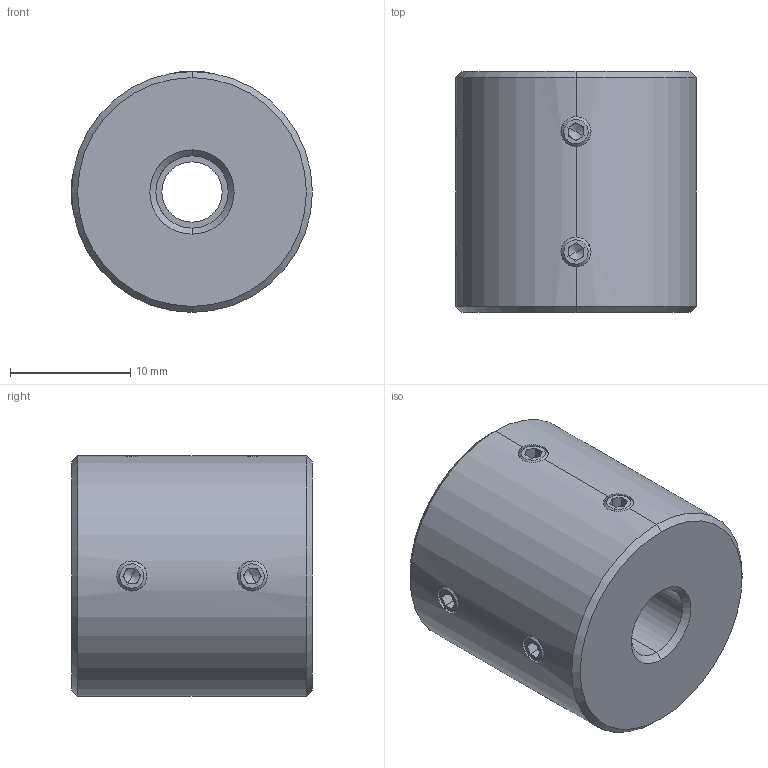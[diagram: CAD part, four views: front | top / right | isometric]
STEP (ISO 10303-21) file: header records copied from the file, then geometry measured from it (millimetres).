
FILE_DESCRIPTION (( 'STEP AP214' ), '1' );
FILE_NAME ('LL-D-D20L20-5-6.STEP', '2022-07-23T06:29:55', ( '' ), ( '' ), 'SwSTEP 2.0', 'SolidWorks 2022', '' );
FILE_SCHEMA (( 'AUTOMOTIVE_DESIGN' ));
Length unit declared in the file: millimetre
Products named in the file (1): LL-D-D20L20-5-6
Bounding box: 20 x 20 x 20 mm (x, y, z)
Volume: 5707.2 mm3; surface area: 2303.2 mm2
Topology: 1 solids, 1 shells, 113 faces, 286 edges, 176 vertices
Faces by surface type: plane 59, cone 32, cylinder 22
Entity records: 3650 total; most frequent: CARTESIAN_POINT 900, DIRECTION 582, ORIENTED_EDGE 556, EDGE_CURVE 278, AXIS2_PLACEMENT_3D 214, VERTEX_POINT 176, LINE 154, VECTOR 154
